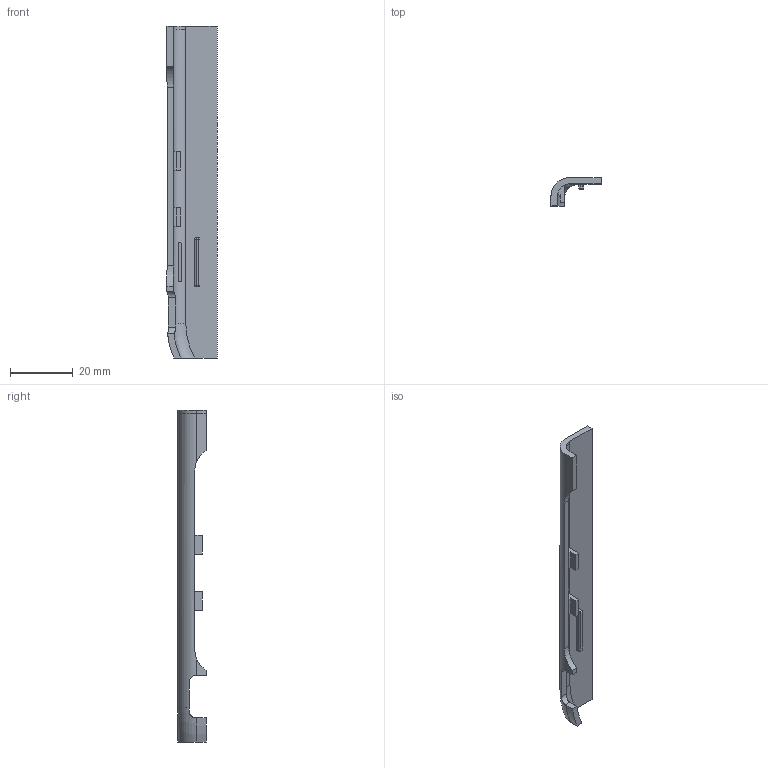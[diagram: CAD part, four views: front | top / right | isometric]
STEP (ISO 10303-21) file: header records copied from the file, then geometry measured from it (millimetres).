
FILE_DESCRIPTION(('Open CASCADE Model'),'2;1');
FILE_NAME('rear_service_cover_PA12','2026-09-06T11:35:11',('Author'),( 'Open CASCADE'),'Open CASCADE STEP processor 7.8','build123d', 'Unknown');
FILE_SCHEMA(('AUTOMOTIVE_DESIGN { 1 0 10303 214 1 1 1 1 }'));
Length unit declared in the file: millimetre
Products named in the file (1): rear_service_cover_PA12
Bounding box: 16 x 9 x 106 mm (x, y, z)
Volume: 3913.2 mm3; surface area: 4492 mm2
Topology: 1 solids, 1 shells, 70 faces, 180 edges, 112 vertices
Faces by surface type: plane 40, cylinder 21, sphere 5, torus 4
Entity records: 5235 total; most frequent: CARTESIAN_POINT 1857, DIRECTION 578, ORIENTED_EDGE 352, PCURVE 352, DEFINITIONAL_REPRESENTATION 352, LINE 324, VECTOR 324, EDGE_CURVE 176
